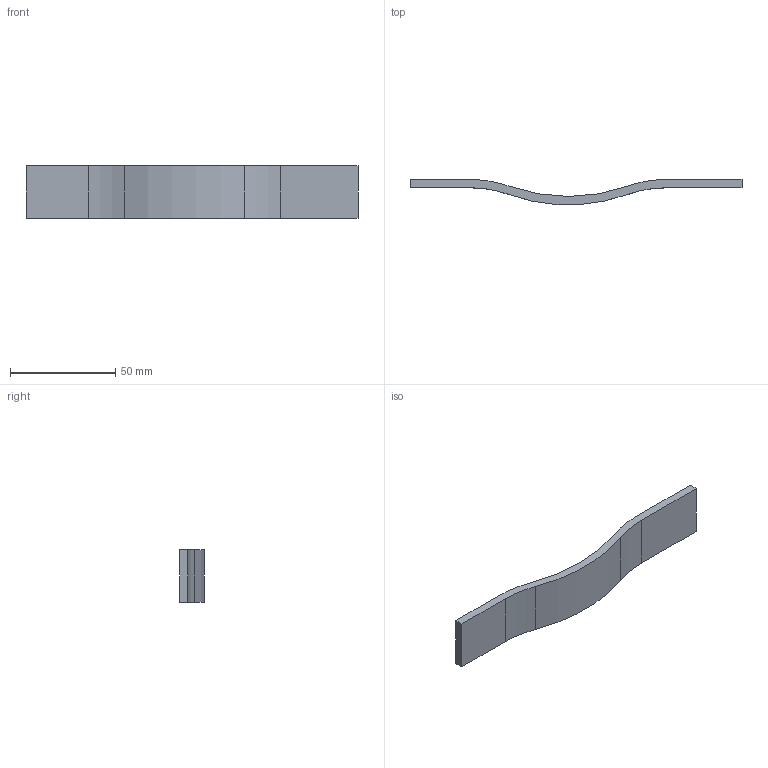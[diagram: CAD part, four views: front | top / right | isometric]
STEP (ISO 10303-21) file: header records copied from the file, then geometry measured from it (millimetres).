
FILE_DESCRIPTION( ( '' ), '1' );
FILE_NAME( 'D:/1.AUTOCAD EXPORT/Group 10/sheet_10_1/9071839.stp', '2013-10-18T04:36:13', ( '' ), ( '' ), ' ', ' ', ' ' );
FILE_SCHEMA( ( 'automotive_design' ) );
Length unit declared in the file: millimetre
Products named in the file (1): 1
Bounding box: 158 x 11.88 x 25 mm (x, y, z)
Volume: 15593.6 mm3; surface area: 9568.1 mm2
Topology: 1 solids, 1 shells, 20 faces, 48 edges, 32 vertices
Faces by surface type: cylinder 10, plane 10
Entity records: 1176 total; most frequent: DIRECTION 110, STYLED_ITEM 101, PRESENTATION_STYLE_ASSIGNMENT 101, CARTESIAN_POINT 101, COLOUR_RGB 101, ORIENTED_EDGE 96, EDGE_CURVE 48, CURVE_STYLE 48
